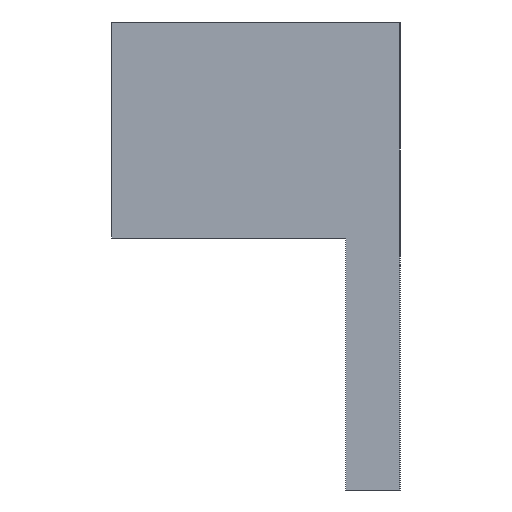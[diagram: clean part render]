
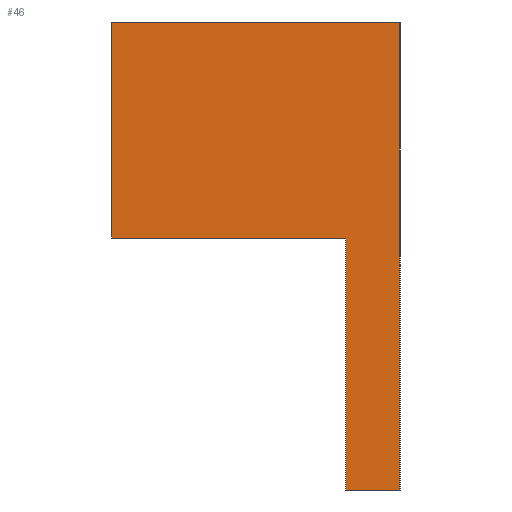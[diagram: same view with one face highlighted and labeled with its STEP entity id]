
A CAD part, left-side view. The second image highlights one B-rep face of the part: STEP entity #46.
In plain terms, the highlighted planar face has unit normal (-1, 0, 0).
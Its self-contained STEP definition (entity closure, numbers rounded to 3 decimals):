
#46 = ADVANCED_FACE( '', ( #94 ), #95, .F. );
#94 = FACE_OUTER_BOUND( '', #141, .T. );
#95 = PLANE( '', #142 );
#141 = EDGE_LOOP( '', ( #201, #202, #203, #204, #205, #206 ) );
#142 = AXIS2_PLACEMENT_3D( '', #207, #208, #209 );
#201 = ORIENTED_EDGE( '', *, *, #262, .F. );
#202 = ORIENTED_EDGE( '', *, *, #277, .F. );
#203 = ORIENTED_EDGE( '', *, *, #257, .F. );
#204 = ORIENTED_EDGE( '', *, *, #278, .F. );
#205 = ORIENTED_EDGE( '', *, *, #279, .F. );
#206 = ORIENTED_EDGE( '', *, *, #267, .F. );
#207 = CARTESIAN_POINT( '', ( -10., 0., 0. ) );
#208 = DIRECTION( '', ( 1., 0., 0. ) );
#209 = DIRECTION( '', ( 0., 0., -1. ) );
#257 = EDGE_CURVE( '', #291, #292, #293, .T. );
#262 = EDGE_CURVE( '', #300, #301, #302, .T. );
#267 = EDGE_CURVE( '', #301, #309, #310, .T. );
#277 = EDGE_CURVE( '', #292, #300, #325, .T. );
#278 = EDGE_CURVE( '', #326, #291, #327, .T. );
#279 = EDGE_CURVE( '', #309, #326, #328, .T. );
#291 = VERTEX_POINT( '', #341 );
#292 = VERTEX_POINT( '', #342 );
#293 = LINE( '', #343, #344 );
#300 = VERTEX_POINT( '', #354 );
#301 = VERTEX_POINT( '', #355 );
#302 = LINE( '', #356, #357 );
#309 = VERTEX_POINT( '', #367 );
#310 = LINE( '', #368, #369 );
#325 = LINE( '', #386, #387 );
#326 = VERTEX_POINT( '', #388 );
#327 = LINE( '', #389, #390 );
#328 = LINE( '', #391, #392 );
#341 = CARTESIAN_POINT( '', ( -10., -13., -6. ) );
#342 = CARTESIAN_POINT( '', ( -10., 0., -6. ) );
#343 = CARTESIAN_POINT( '', ( -10., -13., -6. ) );
#344 = VECTOR( '', #408, 1000. );
#354 = CARTESIAN_POINT( '', ( -10., 0., 6. ) );
#355 = CARTESIAN_POINT( '', ( -10., -16., 6. ) );
#356 = CARTESIAN_POINT( '', ( -10., 0., 6. ) );
#357 = VECTOR( '', #412, 1000. );
#367 = CARTESIAN_POINT( '', ( -10., -16., -20. ) );
#368 = CARTESIAN_POINT( '', ( -10., -16., 6. ) );
#369 = VECTOR( '', #416, 1000. );
#386 = CARTESIAN_POINT( '', ( -10., 0., -6. ) );
#387 = VECTOR( '', #431, 1000. );
#388 = CARTESIAN_POINT( '', ( -10., -13., -20. ) );
#389 = CARTESIAN_POINT( '', ( -10., -13., -20. ) );
#390 = VECTOR( '', #432, 1000. );
#391 = CARTESIAN_POINT( '', ( -10., -16., -20. ) );
#392 = VECTOR( '', #433, 1000. );
#408 = DIRECTION( '', ( 0., 1., 0. ) );
#412 = DIRECTION( '', ( 0., -1., 0. ) );
#416 = DIRECTION( '', ( 0., 0., -1. ) );
#431 = DIRECTION( '', ( 0., 0., 1. ) );
#432 = DIRECTION( '', ( 0., 0., 1. ) );
#433 = DIRECTION( '', ( 0., 1., 0. ) );
